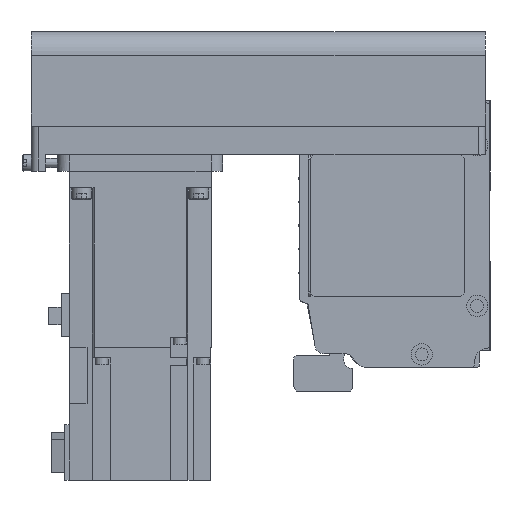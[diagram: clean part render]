
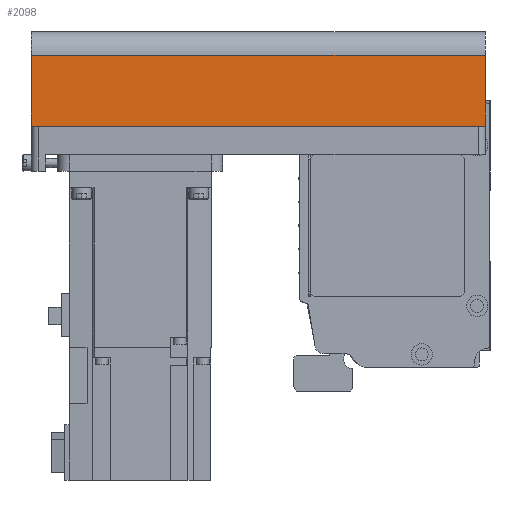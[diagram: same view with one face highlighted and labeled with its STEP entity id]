
A CAD part, left-side view. The second image highlights one B-rep face of the part: STEP entity #2098.
In plain terms, the highlighted planar face has unit normal (-1, 0, 0) as drawn and (0, 1, 0) by its records, which use the part's own axes.
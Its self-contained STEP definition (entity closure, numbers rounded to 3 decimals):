
#2098 = ADVANCED_FACE( '', ( #4400 ), #4401, .T. );
#4400 = FACE_OUTER_BOUND( '', #6816, .T. );
#4401 = PLANE( '', #6817 );
#6816 = EDGE_LOOP( '', ( #12530, #12531, #12532, #12533 ) );
#6817 = AXIS2_PLACEMENT_3D( '', #12534, #12535, #12536 );
#12530 = ORIENTED_EDGE( '', *, *, #15282, .F. );
#12531 = ORIENTED_EDGE( '', *, *, #15058, .F. );
#12532 = ORIENTED_EDGE( '', *, *, #15968, .T. );
#12533 = ORIENTED_EDGE( '', *, *, #15501, .T. );
#12534 = CARTESIAN_POINT( '', ( -192., 40., -42. ) );
#12535 = DIRECTION( '', ( 0., 1., 0. ) );
#12536 = DIRECTION( '', ( 0., 0., 1. ) );
#15058 = EDGE_CURVE( '', #18458, #18456, #18460, .T. );
#15282 = EDGE_CURVE( '', #18456, #18775, #18776, .T. );
#15501 = EDGE_CURVE( '', #16975, #18775, #19077, .T. );
#15968 = EDGE_CURVE( '', #18458, #16975, #19643, .T. );
#16975 = VERTEX_POINT( '', #20929 );
#18456 = VERTEX_POINT( '', #22919 );
#18458 = VERTEX_POINT( '', #22921 );
#18460 = LINE( '', #22923, #22924 );
#18775 = VERTEX_POINT( '', #23354 );
#18776 = LINE( '', #23355, #23356 );
#19077 = LINE( '', #23761, #23762 );
#19643 = LINE( '', #24516, #24517 );
#20929 = CARTESIAN_POINT( '', ( -192., 40., -12.1 ) );
#22919 = CARTESIAN_POINT( '', ( 0., 40., -42. ) );
#22921 = CARTESIAN_POINT( '', ( -192., 40., -42. ) );
#22923 = CARTESIAN_POINT( '', ( -192., 40., -42. ) );
#22924 = VECTOR( '', #26538, 1000. );
#23354 = CARTESIAN_POINT( '', ( 0., 40., -12.1 ) );
#23355 = CARTESIAN_POINT( '', ( 0., 40., -42. ) );
#23356 = VECTOR( '', #26771, 1000. );
#23761 = CARTESIAN_POINT( '', ( -192., 40., -12.1 ) );
#23762 = VECTOR( '', #27020, 1000. );
#24516 = CARTESIAN_POINT( '', ( -192., 40., -42. ) );
#24517 = VECTOR( '', #27470, 1000. );
#26538 = DIRECTION( '', ( 1., 0., 0. ) );
#26771 = DIRECTION( '', ( 0., 0., 1. ) );
#27020 = DIRECTION( '', ( 1., 0., 0. ) );
#27470 = DIRECTION( '', ( 0., 0., 1. ) );
